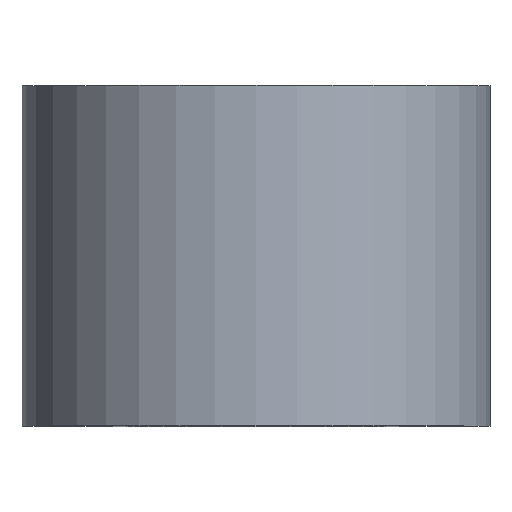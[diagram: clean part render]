
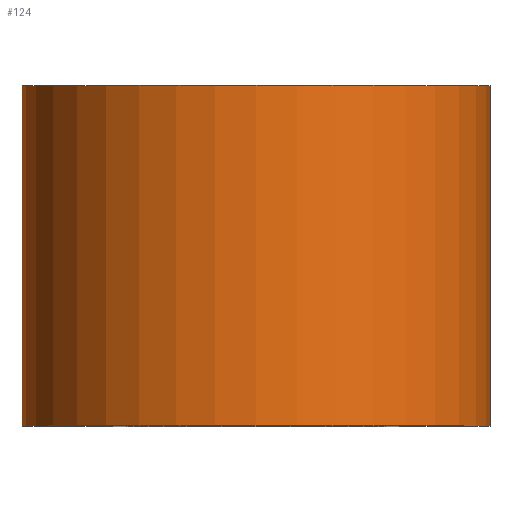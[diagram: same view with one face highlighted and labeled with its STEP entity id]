
A CAD part, top view. The second image highlights one B-rep face of the part: STEP entity #124.
In plain terms, the highlighted cylindrical face has radius 11 mm (diameter 22 mm), a partial arc.
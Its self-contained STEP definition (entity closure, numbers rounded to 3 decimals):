
#15 = AXIS2_PLACEMENT_3D ( 'NONE', #137, #182, #295 ) ;
#28 = ORIENTED_EDGE ( 'NONE', *, *, #168, .F. ) ;
#38 = CARTESIAN_POINT ( 'NONE',  ( 11., 0., 0. ) ) ;
#40 = VERTEX_POINT ( 'NONE', #38 ) ;
#48 = CARTESIAN_POINT ( 'NONE',  ( -11., 16., 0. ) ) ;
#50 = CIRCLE ( 'NONE', #15, 11. ) ;
#77 = DIRECTION ( 'NONE',  ( 0., 1., 0. ) ) ;
#82 = EDGE_CURVE ( 'NONE', #164, #40, #50, .T. ) ;
#84 = VECTOR ( 'NONE', #77, 1000. ) ;
#96 = VECTOR ( 'NONE', #163, 1000. ) ;
#101 = CARTESIAN_POINT ( 'NONE',  ( 0., 0., 0. ) ) ;
#103 = EDGE_LOOP ( 'NONE', ( #217, #226, #28, #186 ) ) ;
#104 = CARTESIAN_POINT ( 'NONE',  ( 11., 0., 0. ) ) ;
#106 = LINE ( 'NONE', #104, #96 ) ;
#110 = VERTEX_POINT ( 'NONE', #210 ) ;
#111 = CIRCLE ( 'NONE', #234, 11. ) ;
#120 = DIRECTION ( 'NONE',  ( -1., 0., 0. ) ) ;
#122 = CARTESIAN_POINT ( 'NONE',  ( 0., 16., 0. ) ) ;
#124 = ADVANCED_FACE ( 'NONE', ( #287 ), #218, .T. ) ;
#137 = CARTESIAN_POINT ( 'NONE',  ( 0., 0., 0. ) ) ;
#138 = DIRECTION ( 'NONE',  ( -1., 0., 0. ) ) ;
#159 = DIRECTION ( 'NONE',  ( 0., 1., 0. ) ) ;
#163 = DIRECTION ( 'NONE',  ( 0., 1., 0. ) ) ;
#164 = VERTEX_POINT ( 'NONE', #209 ) ;
#168 = EDGE_CURVE ( 'NONE', #239, #110, #111, .T. ) ;
#182 = DIRECTION ( 'NONE',  ( 0., 1., 0. ) ) ;
#183 = AXIS2_PLACEMENT_3D ( 'NONE', #101, #159, #120 ) ;
#186 = ORIENTED_EDGE ( 'NONE', *, *, #191, .F. ) ;
#191 = EDGE_CURVE ( 'NONE', #164, #239, #271, .T. ) ;
#209 = CARTESIAN_POINT ( 'NONE',  ( -11., 0., 0. ) ) ;
#210 = CARTESIAN_POINT ( 'NONE',  ( 11., 16., 0. ) ) ;
#217 = ORIENTED_EDGE ( 'NONE', *, *, #82, .T. ) ;
#218 = CYLINDRICAL_SURFACE ( 'NONE', #183, 11. ) ;
#226 = ORIENTED_EDGE ( 'NONE', *, *, #246, .T. ) ;
#234 = AXIS2_PLACEMENT_3D ( 'NONE', #122, #301, #138 ) ;
#239 = VERTEX_POINT ( 'NONE', #48 ) ;
#246 = EDGE_CURVE ( 'NONE', #40, #110, #106, .T. ) ;
#271 = LINE ( 'NONE', #274, #84 ) ;
#274 = CARTESIAN_POINT ( 'NONE',  ( -11., 0., 0. ) ) ;
#287 = FACE_OUTER_BOUND ( 'NONE', #103, .T. ) ;
#295 = DIRECTION ( 'NONE',  ( -1., 0., 0. ) ) ;
#301 = DIRECTION ( 'NONE',  ( 0., 1., 0. ) ) ;
